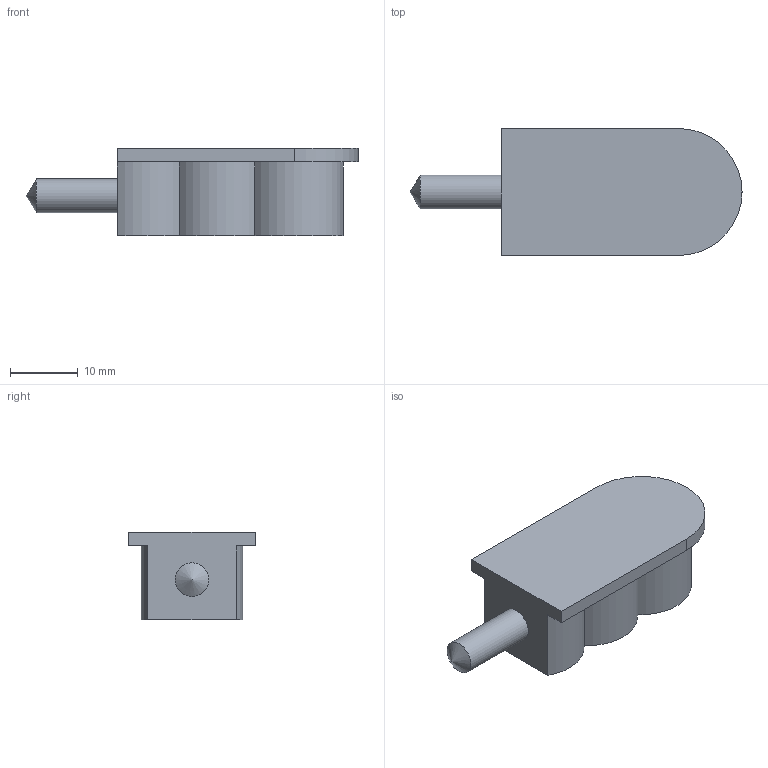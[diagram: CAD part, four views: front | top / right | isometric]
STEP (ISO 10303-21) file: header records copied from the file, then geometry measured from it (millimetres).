
FILE_DESCRIPTION(/* description */ (''),/* implementation_level */ '2;1');
FILE_NAME(/* name */ 'C:\Users\matthiask.LAMELLONET\Desktop\Cabineo_Abdeckkappe_flächenbündig_Variante_1-2_Gegenbohrung_D5x12mm.stp',/* time_stamp */ '2021-07-13T14:28:36+02:00',/* author */ ('matthiask'),/* organization */ (''),/* preprocessor_version */ 'ST-DEVELOPER v18',/* originating_system */ 'Autodesk Inventor 2020',/* authorisation */ '');
FILE_SCHEMA (('AUTOMOTIVE_DESIGN { 1 0 10303 214 3 1 1 }'));
Length unit declared in the file: millimetre
Products named in the file (3): Cabineo Abdeckkappe flächenbündig Variante 1-2_Gegenbohrung D
5x12; Cabineo Abdeckkappe flächenbündig Variante 1-2; Cabineo Bohrung D5x12
Assembly tree (2 placements, depth 2):
  Cabineo Abdeckkappe flächenbündig Variante 1-2_Gegenbohrung D
5x12
    Cabineo Abdeckkappe flächenbündig Variante 1-2
    Cabineo Bohrung D5x12
Bounding box: 49.15 x 18.8 x 13 mm (x, y, z)
Volume: 6377.6 mm3; surface area: 2740.5 mm2
Topology: 2 solids, 2 shells, 15 faces, 37 edges, 25 vertices
Faces by surface type: plane 7, cylinder 7, cone 1
Full cylindrical faces by diameter (mm): 5 x1
Entity records: 573 total; most frequent: DIRECTION 92, CARTESIAN_POINT 81, ORIENTED_EDGE 72, EDGE_CURVE 36, AXIS2_PLACEMENT_3D 36, VERTEX_POINT 25, LINE 20, VECTOR 20
